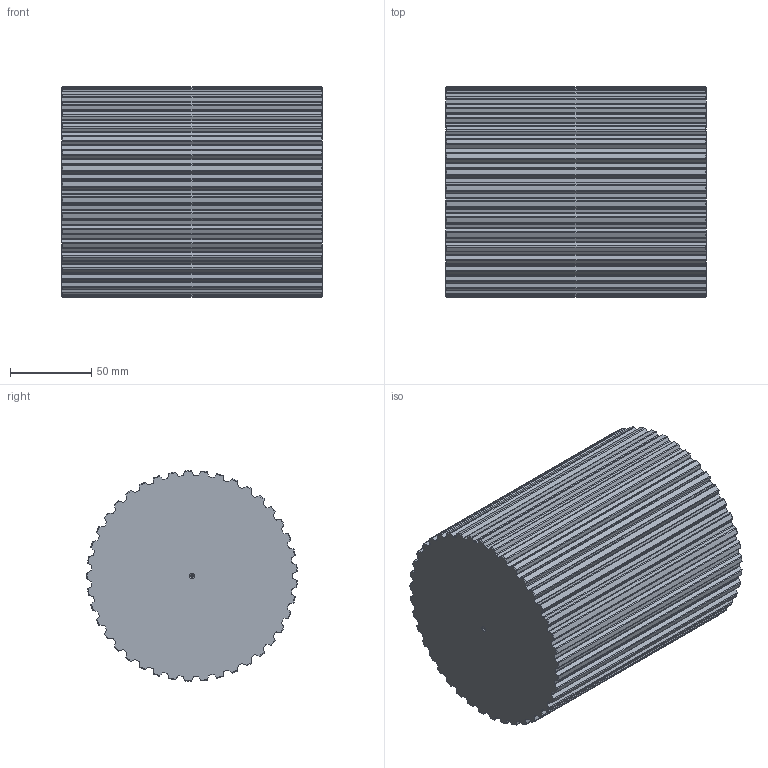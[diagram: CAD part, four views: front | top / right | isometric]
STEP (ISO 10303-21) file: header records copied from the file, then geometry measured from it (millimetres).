
FILE_DESCRIPTION(('STEP AP203'),'1');
FILE_NAME('barat_41.stp','2019-11-28T14:43:42',('TraceParts'),('TraceParts S.A.'),'Spatial InterOp 3D',' ',' ');
FILE_SCHEMA(('CONFIG_CONTROL_DESIGN'));
Length unit declared in the file: millimetre
Products named in the file (1): 1
Bounding box: 160 x 129.42 x 129.5 mm (x, y, z)
Volume: 2020179.7 mm3; surface area: 109837 mm2
Topology: 1 solids, 1 shells, 426 faces, 1264 edges, 838 vertices
Faces by surface type: cylinder 250, cone 92, plane 84
Entity records: 15370 total; most frequent: CARTESIAN_POINT 4329, ORIENTED_EDGE 2520, DIRECTION 2212, EDGE_CURVE 1260, AXIS2_PLACEMENT_3D 853, VERTEX_POINT 838, LINE 506, VECTOR 506
